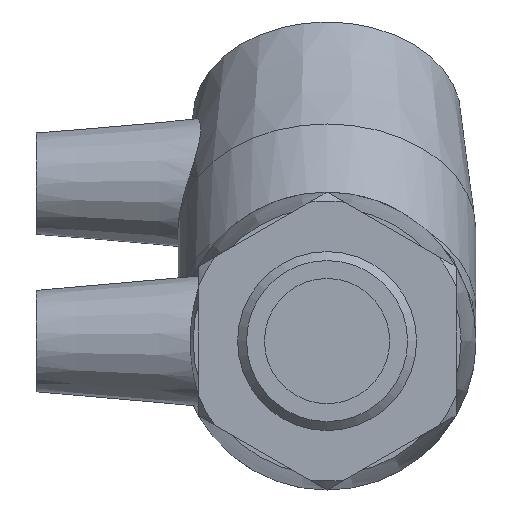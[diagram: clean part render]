
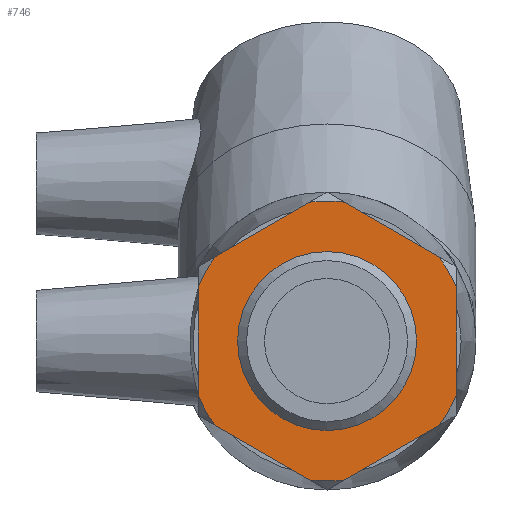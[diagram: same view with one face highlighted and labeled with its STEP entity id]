
A CAD part, left-side view. The second image highlights one B-rep face of the part: STEP entity #746.
In plain terms, the highlighted planar face has unit normal (-1, 0, 0).
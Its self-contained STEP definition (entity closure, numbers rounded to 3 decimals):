
#19=LINE('',#1163,#37);
#23=LINE('',#1187,#41);
#26=LINE('',#1209,#44);
#29=LINE('',#1231,#47);
#34=LINE('',#1268,#52);
#36=LINE('',#1287,#54);
#37=VECTOR('',#926,16.083);
#41=VECTOR('',#932,16.083);
#44=VECTOR('',#937,16.083);
#47=VECTOR('',#942,16.083);
#52=VECTOR('',#949,16.083);
#54=VECTOR('',#953,16.083);
#101=PLANE('',#813);
#121=FACE_BOUND('',#228,.T.);
#165=FACE_OUTER_BOUND('',#227,.T.);
#227=EDGE_LOOP('',(#584,#585,#586,#587,#588,#589,#590,#591,#592,#593,#594,
#595));
#228=EDGE_LOOP('',(#596));
#315=CIRCLE('',#806,13.221);
#316=CIRCLE('',#814,20.68);
#317=CIRCLE('',#815,20.68);
#318=CIRCLE('',#816,20.68);
#319=CIRCLE('',#817,20.68);
#320=CIRCLE('',#818,20.68);
#321=CIRCLE('',#819,20.68);
#364=VERTEX_POINT('',#1154);
#365=VERTEX_POINT('',#1157);
#367=VERTEX_POINT('',#1162);
#373=VERTEX_POINT('',#1182);
#374=VERTEX_POINT('',#1186);
#379=VERTEX_POINT('',#1204);
#380=VERTEX_POINT('',#1208);
#385=VERTEX_POINT('',#1226);
#386=VERTEX_POINT('',#1230);
#392=VERTEX_POINT('',#1249);
#396=VERTEX_POINT('',#1264);
#397=VERTEX_POINT('',#1270);
#400=VERTEX_POINT('',#1283);
#439=EDGE_CURVE('',#364,#364,#315,.T.);
#441=EDGE_CURVE('',#367,#365,#19,.T.);
#449=EDGE_CURVE('',#374,#373,#23,.T.);
#456=EDGE_CURVE('',#380,#379,#26,.T.);
#463=EDGE_CURVE('',#386,#385,#29,.T.);
#475=EDGE_CURVE('',#392,#396,#34,.T.);
#481=EDGE_CURVE('',#397,#400,#36,.T.);
#482=EDGE_CURVE('',#392,#400,#316,.T.);
#483=EDGE_CURVE('',#386,#396,#317,.T.);
#484=EDGE_CURVE('',#380,#385,#318,.T.);
#485=EDGE_CURVE('',#374,#379,#319,.T.);
#486=EDGE_CURVE('',#367,#373,#320,.T.);
#487=EDGE_CURVE('',#397,#365,#321,.T.);
#584=ORIENTED_EDGE('',*,*,#481,.T.);
#585=ORIENTED_EDGE('',*,*,#482,.F.);
#586=ORIENTED_EDGE('',*,*,#475,.T.);
#587=ORIENTED_EDGE('',*,*,#483,.F.);
#588=ORIENTED_EDGE('',*,*,#463,.T.);
#589=ORIENTED_EDGE('',*,*,#484,.F.);
#590=ORIENTED_EDGE('',*,*,#456,.T.);
#591=ORIENTED_EDGE('',*,*,#485,.F.);
#592=ORIENTED_EDGE('',*,*,#449,.T.);
#593=ORIENTED_EDGE('',*,*,#486,.F.);
#594=ORIENTED_EDGE('',*,*,#441,.T.);
#595=ORIENTED_EDGE('',*,*,#487,.F.);
#596=ORIENTED_EDGE('',*,*,#439,.T.);
#746=ADVANCED_FACE('',(#165,#121),#101,.T.);
#806=AXIS2_PLACEMENT_3D('',#1155,#922,#923);
#813=AXIS2_PLACEMENT_3D('',#1288,#954,#955);
#814=AXIS2_PLACEMENT_3D('',#1289,#956,#957);
#815=AXIS2_PLACEMENT_3D('',#1290,#958,#959);
#816=AXIS2_PLACEMENT_3D('',#1291,#960,#961);
#817=AXIS2_PLACEMENT_3D('',#1292,#962,#963);
#818=AXIS2_PLACEMENT_3D('',#1293,#964,#965);
#819=AXIS2_PLACEMENT_3D('',#1294,#966,#967);
#922=DIRECTION('center_axis',(1.,0.,0.));
#923=DIRECTION('ref_axis',(0.,0.,-1.));
#926=DIRECTION('',(0.,0.,-1.));
#932=DIRECTION('',(0.,0.866,-0.5));
#937=DIRECTION('',(0.,0.866,0.5));
#942=DIRECTION('',(0.,0.,1.));
#949=DIRECTION('',(0.,-0.866,0.5));
#953=DIRECTION('',(0.,-0.866,-0.5));
#954=DIRECTION('center_axis',(-1.,0.,0.));
#955=DIRECTION('ref_axis',(0.,0.,1.));
#956=DIRECTION('center_axis',(1.,0.,0.));
#957=DIRECTION('ref_axis',(0.,0.,1.));
#958=DIRECTION('center_axis',(1.,0.,0.));
#959=DIRECTION('ref_axis',(0.,0.,1.));
#960=DIRECTION('center_axis',(1.,0.,0.));
#961=DIRECTION('ref_axis',(0.,0.,1.));
#962=DIRECTION('center_axis',(1.,0.,0.));
#963=DIRECTION('ref_axis',(0.,0.,1.));
#964=DIRECTION('center_axis',(1.,0.,0.));
#965=DIRECTION('ref_axis',(0.,0.,1.));
#966=DIRECTION('center_axis',(1.,0.,0.));
#967=DIRECTION('ref_axis',(0.,0.,1.));
#1154=CARTESIAN_POINT('',(-54.212,0.,-13.221));
#1155=CARTESIAN_POINT('Origin',(-54.212,0.,0.));
#1157=CARTESIAN_POINT('',(-54.212,19.053,-8.041));
#1162=CARTESIAN_POINT('',(-54.212,19.053,8.041));
#1163=CARTESIAN_POINT('',(-54.212,19.053,-16.5));
#1182=CARTESIAN_POINT('',(-54.212,16.49,12.479));
#1186=CARTESIAN_POINT('',(-54.212,2.562,20.521));
#1187=CARTESIAN_POINT('',(-54.212,19.053,11.));
#1204=CARTESIAN_POINT('',(-54.212,-2.562,20.521));
#1208=CARTESIAN_POINT('',(-54.212,-16.49,12.479));
#1209=CARTESIAN_POINT('',(-54.212,-9.526,16.5));
#1226=CARTESIAN_POINT('',(-54.212,-19.053,8.041));
#1230=CARTESIAN_POINT('',(-54.212,-19.053,-8.041));
#1231=CARTESIAN_POINT('',(-54.212,-19.053,-5.5));
#1249=CARTESIAN_POINT('',(-54.212,-2.562,-20.521));
#1264=CARTESIAN_POINT('',(-54.212,-16.49,-12.479));
#1268=CARTESIAN_POINT('',(-54.212,-9.526,-16.5));
#1270=CARTESIAN_POINT('',(-54.212,16.49,-12.479));
#1283=CARTESIAN_POINT('',(-54.212,2.562,-20.521));
#1287=CARTESIAN_POINT('',(-54.212,0.,-22.));
#1288=CARTESIAN_POINT('Origin',(-54.212,0.,-22.));
#1289=CARTESIAN_POINT('Origin',(-54.212,0.,0.));
#1290=CARTESIAN_POINT('Origin',(-54.212,0.,0.));
#1291=CARTESIAN_POINT('Origin',(-54.212,0.,0.));
#1292=CARTESIAN_POINT('Origin',(-54.212,0.,0.));
#1293=CARTESIAN_POINT('Origin',(-54.212,0.,0.));
#1294=CARTESIAN_POINT('Origin',(-54.212,0.,0.));
